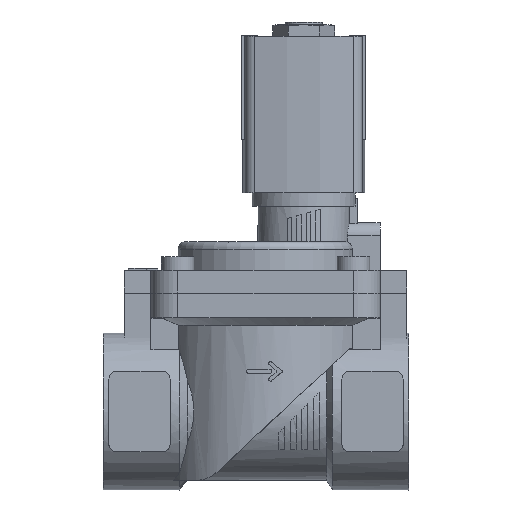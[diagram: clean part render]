
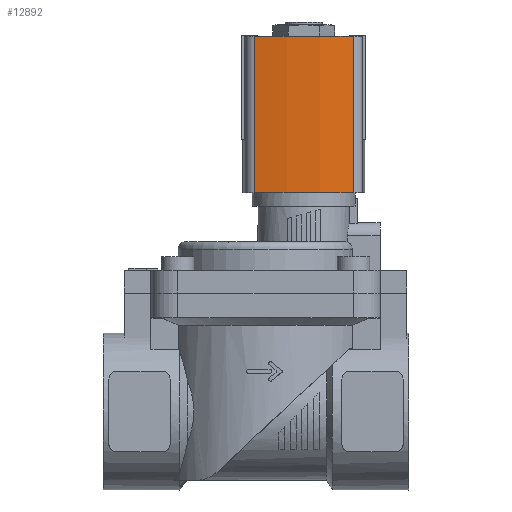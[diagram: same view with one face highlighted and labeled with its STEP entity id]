
A CAD part, top view. The second image highlights one B-rep face of the part: STEP entity #12892.
In plain terms, the highlighted cylindrical face has radius 60 mm (diameter 120 mm), a partial arc.
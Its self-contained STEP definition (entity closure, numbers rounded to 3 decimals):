
#240=CYLINDRICAL_SURFACE('',#13768,60.);
#1250=LINE('',#19733,#2342);
#1251=LINE('',#19737,#2343);
#2342=VECTOR('',#16345,1000.);
#2343=VECTOR('',#16350,1000.);
#4743=ORIENTED_EDGE('',*,*,#6778,.T.);
#4744=ORIENTED_EDGE('',*,*,#6779,.F.);
#4745=ORIENTED_EDGE('',*,*,#6064,.F.);
#4746=ORIENTED_EDGE('',*,*,#6777,.T.);
#6064=EDGE_CURVE('',#7338,#7339,#8072,.T.);
#6777=EDGE_CURVE('',#7338,#7844,#1250,.T.);
#6778=EDGE_CURVE('',#7844,#7845,#8166,.T.);
#6779=EDGE_CURVE('',#7339,#7845,#1251,.T.);
#7338=VERTEX_POINT('',#18387);
#7339=VERTEX_POINT('',#18389);
#7844=VERTEX_POINT('',#19732);
#7845=VERTEX_POINT('',#19736);
#8072=CIRCLE('',#13548,60.);
#8166=CIRCLE('',#13769,60.);
#8607=EDGE_LOOP('',(#4743,#4744,#4745,#4746));
#9203=FACE_BOUND('',#8607,.T.);
#12892=ADVANCED_FACE('',(#9203),#240,.T.);
#13548=AXIS2_PLACEMENT_3D('',#18388,#15286,#15287);
#13768=AXIS2_PLACEMENT_3D('',#19734,#16346,#16347);
#13769=AXIS2_PLACEMENT_3D('',#19735,#16348,#16349);
#15286=DIRECTION('',(0.,1.,0.));
#15287=DIRECTION('',(1.,0.,0.));
#16345=DIRECTION('',(0.,-1.,0.));
#16346=DIRECTION('',(0.,-1.,0.));
#16347=DIRECTION('',(0.,0.,-1.));
#16348=DIRECTION('',(0.,1.,0.));
#16349=DIRECTION('',(1.,0.,0.));
#16350=DIRECTION('',(0.,-1.,0.));
#18387=CARTESIAN_POINT('',(19.078,15.,12.986));
#18388=CARTESIAN_POINT('',(-39.5,15.,0.));
#18389=CARTESIAN_POINT('',(19.078,15.,-12.986));
#19732=CARTESIAN_POINT('',(19.078,-26.,12.986));
#19733=CARTESIAN_POINT('',(19.078,15.,12.986));
#19734=CARTESIAN_POINT('',(-39.5,15.,0.));
#19735=CARTESIAN_POINT('',(-39.5,-26.,0.));
#19736=CARTESIAN_POINT('',(19.078,-26.,-12.986));
#19737=CARTESIAN_POINT('',(19.078,15.,-12.986));
